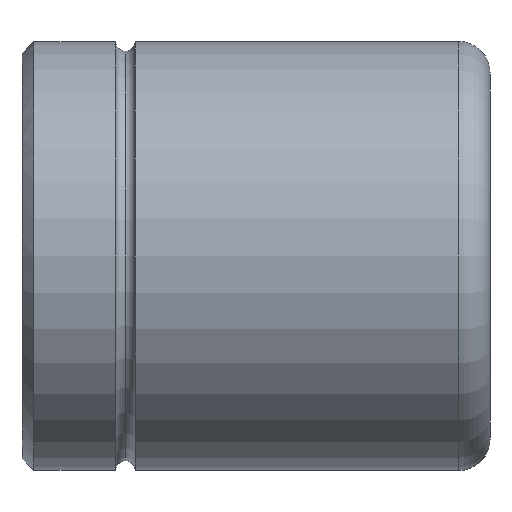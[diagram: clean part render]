
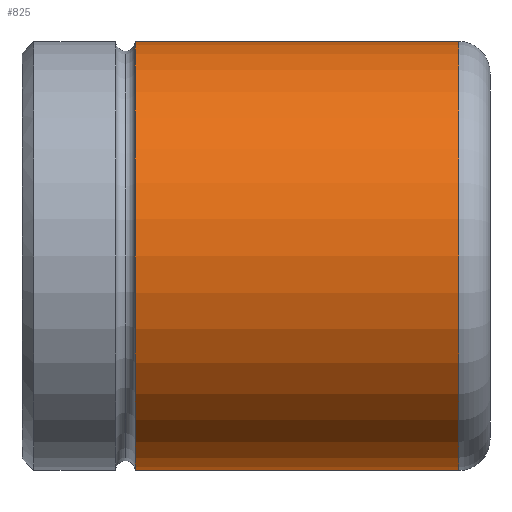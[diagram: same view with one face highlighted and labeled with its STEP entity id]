
A CAD part, front view. The second image highlights one B-rep face of the part: STEP entity #825.
In plain terms, the highlighted cylindrical face has radius 27.5 mm (diameter 55 mm), a partial arc.
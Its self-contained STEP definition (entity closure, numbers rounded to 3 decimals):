
#641=CARTESIAN_POINT('Vertex',(14.5,0.,27.5)) ;
#648=CARTESIAN_POINT('Vertex',(14.5,0.,-27.5)) ;
#674=CARTESIAN_POINT('Axis2P3D Location',(14.5,0.,0.)) ;
#678=CARTESIAN_POINT('Vertex',(14.5,-27.5,0.)) ;
#681=CARTESIAN_POINT('Axis2P3D Location',(14.5,0.,0.)) ;
#765=CARTESIAN_POINT('Line Origine',(60.,0.,27.5)) ;
#769=CARTESIAN_POINT('Vertex',(56.,0.,27.5)) ;
#783=CARTESIAN_POINT('Vertex',(56.,0.,-27.5)) ;
#786=CARTESIAN_POINT('Line Origine',(60.,0.,-27.5)) ;
#800=CARTESIAN_POINT('Axis2P3D Location',(60.,0.,0.)) ;
#805=CARTESIAN_POINT('Axis2P3D Location',(56.,0.,0.)) ;
#809=CARTESIAN_POINT('Vertex',(56.,-27.5,0.)) ;
#812=CARTESIAN_POINT('Axis2P3D Location',(56.,0.,0.)) ;
#675=DIRECTION('Axis2P3D Direction',(1.,0.,-0.)) ;
#682=DIRECTION('Axis2P3D Direction',(1.,0.,-0.)) ;
#766=DIRECTION('Vector Direction',(-1.,0.,0.)) ;
#787=DIRECTION('Vector Direction',(-1.,0.,0.)) ;
#801=DIRECTION('Axis2P3D Direction',(-1.,-0.,-0.)) ;
#802=DIRECTION('Axis2P3D XDirection',(0.,0.,-1.)) ;
#806=DIRECTION('Axis2P3D Direction',(-1.,-0.,-0.)) ;
#813=DIRECTION('Axis2P3D Direction',(-1.,-0.,-0.)) ;
#676=AXIS2_PLACEMENT_3D('Circle Axis2P3D',#674,#675,$) ;
#683=AXIS2_PLACEMENT_3D('Circle Axis2P3D',#681,#682,$) ;
#803=AXIS2_PLACEMENT_3D('Cylinder Axis2P3D',#800,#801,#802) ;
#807=AXIS2_PLACEMENT_3D('Circle Axis2P3D',#805,#806,$) ;
#814=AXIS2_PLACEMENT_3D('Circle Axis2P3D',#812,#813,$) ;
#818=ORIENTED_EDGE('',*,*,#790,.T.) ;
#819=ORIENTED_EDGE('',*,*,#811,.F.) ;
#820=ORIENTED_EDGE('',*,*,#816,.F.) ;
#821=ORIENTED_EDGE('',*,*,#771,.T.) ;
#822=ORIENTED_EDGE('',*,*,#685,.T.) ;
#823=ORIENTED_EDGE('',*,*,#680,.T.) ;
#767=VECTOR('Line Direction',#766,1.) ;
#788=VECTOR('Line Direction',#787,1.) ;
#825=ADVANCED_FACE('347-40 x 60',(#824),#804,.T.) ;
#677=CIRCLE('generated circle',#676,27.5) ;
#684=CIRCLE('generated circle',#683,27.5) ;
#808=CIRCLE('generated circle',#807,27.5) ;
#815=CIRCLE('generated circle',#814,27.5) ;
#804=CYLINDRICAL_SURFACE('generated cylinder',#803,27.5) ;
#680=EDGE_CURVE('',#679,#649,#677,.T.) ;
#685=EDGE_CURVE('',#642,#679,#684,.T.) ;
#771=EDGE_CURVE('',#770,#642,#768,.T.) ;
#790=EDGE_CURVE('',#649,#784,#789,.F.) ;
#811=EDGE_CURVE('',#810,#784,#808,.F.) ;
#816=EDGE_CURVE('',#770,#810,#815,.F.) ;
#817=EDGE_LOOP('',(#818,#819,#820,#821,#822,#823)) ;
#824=FACE_OUTER_BOUND('',#817,.T.) ;
#768=LINE('Line',#765,#767) ;
#789=LINE('Line',#786,#788) ;
#642=VERTEX_POINT('',#641) ;
#649=VERTEX_POINT('',#648) ;
#679=VERTEX_POINT('',#678) ;
#770=VERTEX_POINT('',#769) ;
#784=VERTEX_POINT('',#783) ;
#810=VERTEX_POINT('',#809) ;
